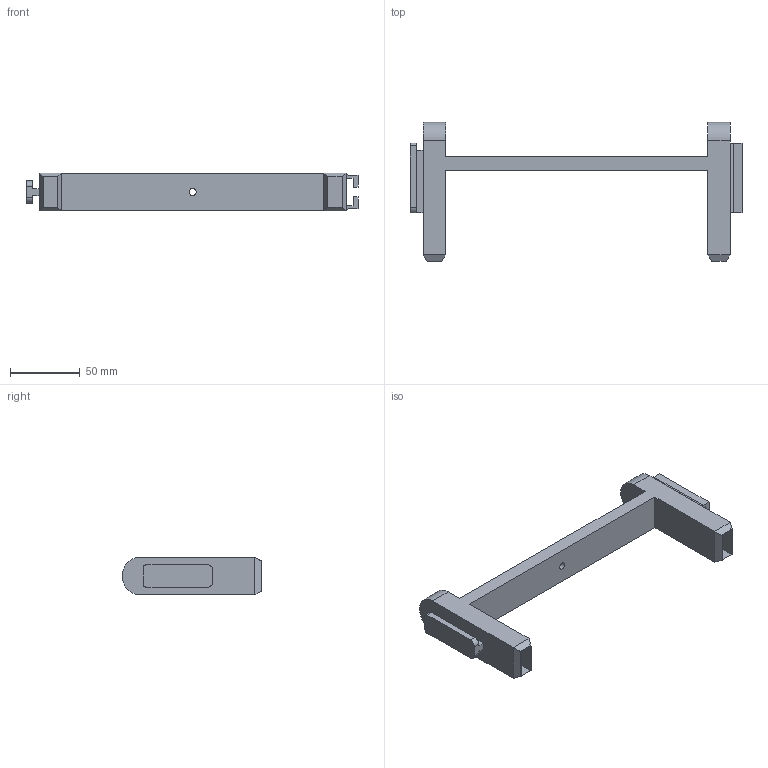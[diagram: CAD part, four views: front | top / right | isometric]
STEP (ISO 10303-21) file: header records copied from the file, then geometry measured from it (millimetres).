
FILE_DESCRIPTION(/* description */ (''),/* implementation_level */ '2;1');
FILE_NAME(/* name */ '',/* time_stamp */ '2025-05-16T21:29:16+09:00',/* author */ (''),/* organization */ (''),/* preprocessor_version */ 'ST-DEVELOPER v20.1',/* originating_system */ 'Autodesk Translation Framework v14.4.0.0',/* authorisation */ '');
FILE_SCHEMA (('AUTOMOTIVE_DESIGN { 1 0 10303 214 3 1 1 }'));
Length unit declared in the file: millimetre
Products named in the file (1): レジ袋ゴミスタンドadpB
Bounding box: 238 x 100 x 27 mm (x, y, z)
Volume: 119881 mm3; surface area: 43025.2 mm2
Topology: 1 solids, 1 shells, 68 faces, 183 edges, 118 vertices
Faces by surface type: plane 57, cylinder 11
Full cylindrical faces by diameter (mm): 5 x1
Entity records: 2119 total; most frequent: CARTESIAN_POINT 370, ORIENTED_EDGE 366, DIRECTION 343, EDGE_CURVE 183, LINE 161, VECTOR 161, VERTEX_POINT 118, AXIS2_PLACEMENT_3D 91
